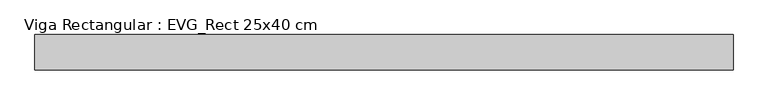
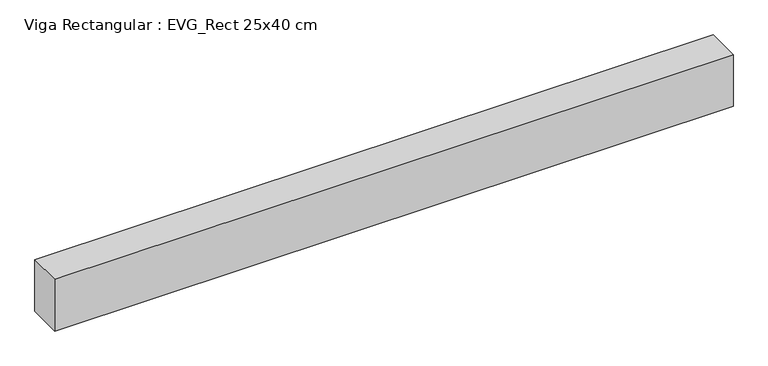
"""IFC4 building model written with IfcOpenShell, lengths in millimetres: beam geometry, Viga Rectangular : EVG_Rect 25x40 cm."""

from ifc_helpers import new_model, si_unit, frame, origin, place, context, project, spatial, polyline, outline, extrude, source, transform, mapped, element, save


def viga_rectangular_evg_rect_25x40_cm_5bf8f6ca(model_context):
    return source(origin(), model_context, "Body", "SweptSolid", [
        extrude(outline(polyline([(2512.5, 125.0), (2512.5, -125.0), (-2437.5, -125.0), (-2437.5, 125.0), (2512.5, 125.0)])), frame((0.0, 0.0, -400.0), z_axis=(0.0, 0.0, 1.0), x_axis=(1.0, 0.0, 0.0)), (0.0, 0.0, 1.0), 400.0),
    ])


if __name__ == "__main__":
    model = new_model("IFC4")
    model_context = context("Model", 3, world=origin())
    ifc_project = project(units=[si_unit("LENGTHUNIT", "METRE", prefix="MILLI")], contexts=[model_context])
    site = spatial("IfcSite", under=ifc_project)
    building = spatial("IfcBuilding", under=site)
    placement = place(None, origin())
    viga_rectangular_evg_rect_25x40_cm_shape = viga_rectangular_evg_rect_25x40_cm_5bf8f6ca(model_context)
    element("IfcBeam", 1, ObjectType="Viga Rectangular : EVG_Rect 25x40 cm", at=placement, inside=building, context=model_context, shape_type="MappedRepresentation", body=[
        mapped(viga_rectangular_evg_rect_25x40_cm_shape, transform((0.0, 0.0, 0.0), x_axis=(1.0, 0.0, 0.0), y_axis=(0.0, 1.0, 0.0), z_axis=(0.0, 0.0, 1.0))),
    ])
    save(model, "model.ifc")
